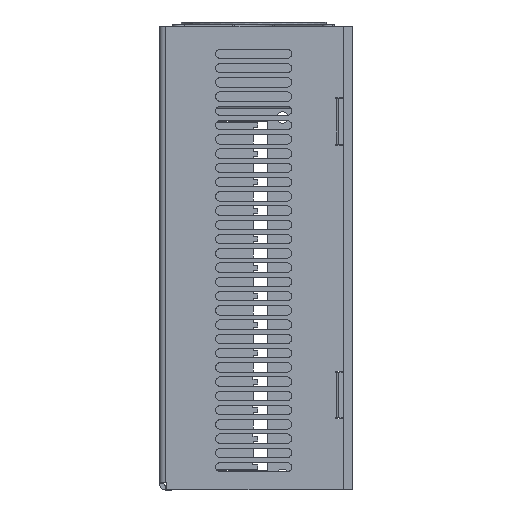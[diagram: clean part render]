
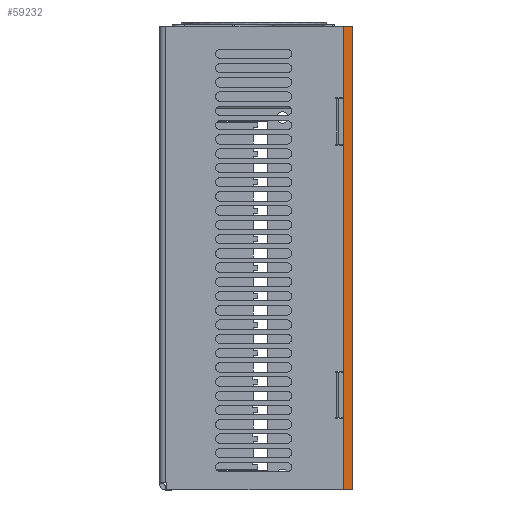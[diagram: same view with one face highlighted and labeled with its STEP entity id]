
A CAD part, left-side view. The second image highlights one B-rep face of the part: STEP entity #59232.
In plain terms, the highlighted planar face has unit normal (-1, 0, 0) as drawn and (1, 0, 0) by its records, which use the part's own axes.
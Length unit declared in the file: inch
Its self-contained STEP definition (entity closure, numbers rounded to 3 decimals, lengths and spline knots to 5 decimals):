
#350 = CARTESIAN_POINT ( 'NONE',  ( 13.824, 0., 0. ) ) ;
#931 = VERTEX_POINT ( 'NONE', #12887 ) ;
#2435 = DIRECTION ( 'NONE',  ( 0., 1., 0. ) ) ;
#2715 = VECTOR ( 'NONE', #26276, 39.37008 ) ;
#2743 = ORIENTED_EDGE ( 'NONE', *, *, #12439, .F. ) ;
#3993 = DIRECTION ( 'NONE',  ( -1., 0., 0. ) ) ;
#6028 = VERTEX_POINT ( 'NONE', #20540 ) ;
#7387 = VECTOR ( 'NONE', #17467, 39.37008 ) ;
#7803 = DIRECTION ( 'NONE',  ( 0., 1., 0. ) ) ;
#10270 = LINE ( 'NONE', #45798, #60232 ) ;
#12439 = EDGE_CURVE ( 'NONE', #931, #55704, #54232, .T. ) ;
#12887 = CARTESIAN_POINT ( 'NONE',  ( 13.824, 6.1, 0.125 ) ) ;
#15697 = EDGE_LOOP ( 'NONE', ( #22555, #2743, #24571, #33480 ) ) ;
#17467 = DIRECTION ( 'NONE',  ( 0., 0., -1. ) ) ;
#18250 = EDGE_CURVE ( 'NONE', #6028, #931, #10270, .T. ) ;
#20327 = VERTEX_POINT ( 'NONE', #350 ) ;
#20540 = CARTESIAN_POINT ( 'NONE',  ( 13.824, 0., 0.125 ) ) ;
#21681 = VECTOR ( 'NONE', #7803, 39.37008 ) ;
#22555 = ORIENTED_EDGE ( 'NONE', *, *, #46551, .T. ) ;
#22624 = FACE_OUTER_BOUND ( 'NONE', #15697, .T. ) ;
#23997 = AXIS2_PLACEMENT_3D ( 'NONE', #57129, #3993, #37844 ) ;
#24571 = ORIENTED_EDGE ( 'NONE', *, *, #18250, .F. ) ;
#26214 = CARTESIAN_POINT ( 'NONE',  ( 13.824, 6.1, 0. ) ) ;
#26276 = DIRECTION ( 'NONE',  ( 0., 0., -1. ) ) ;
#32968 = PLANE ( 'NONE',  #23997 ) ;
#33116 = LINE ( 'NONE', #36508, #7387 ) ;
#33480 = ORIENTED_EDGE ( 'NONE', *, *, #59924, .T. ) ;
#35802 = CARTESIAN_POINT ( 'NONE',  ( 13.824, 6.1, 0.125 ) ) ;
#36068 = LINE ( 'NONE', #41664, #21681 ) ;
#36508 = CARTESIAN_POINT ( 'NONE',  ( 13.824, 0., 0.125 ) ) ;
#37844 = DIRECTION ( 'NONE',  ( 0., 0., 1. ) ) ;
#41664 = CARTESIAN_POINT ( 'NONE',  ( 13.824, 6.1, 0. ) ) ;
#45798 = CARTESIAN_POINT ( 'NONE',  ( 13.824, 6.1, 0.125 ) ) ;
#46551 = EDGE_CURVE ( 'NONE', #20327, #55704, #36068, .T. ) ;
#54232 = LINE ( 'NONE', #35802, #2715 ) ;
#55704 = VERTEX_POINT ( 'NONE', #26214 ) ;
#57129 = CARTESIAN_POINT ( 'NONE',  ( 13.824, 6.1, 0.125 ) ) ;
#59232 = ADVANCED_FACE ( 'NONE', ( #22624 ), #32968, .F. ) ;
#59924 = EDGE_CURVE ( 'NONE', #6028, #20327, #33116, .T. ) ;
#60232 = VECTOR ( 'NONE', #2435, 39.37008 ) ;
